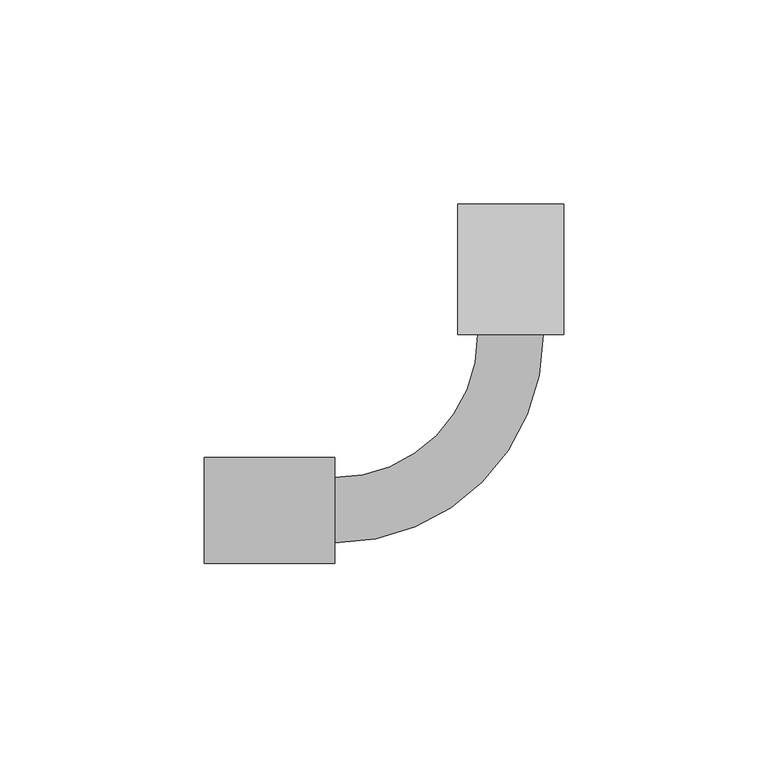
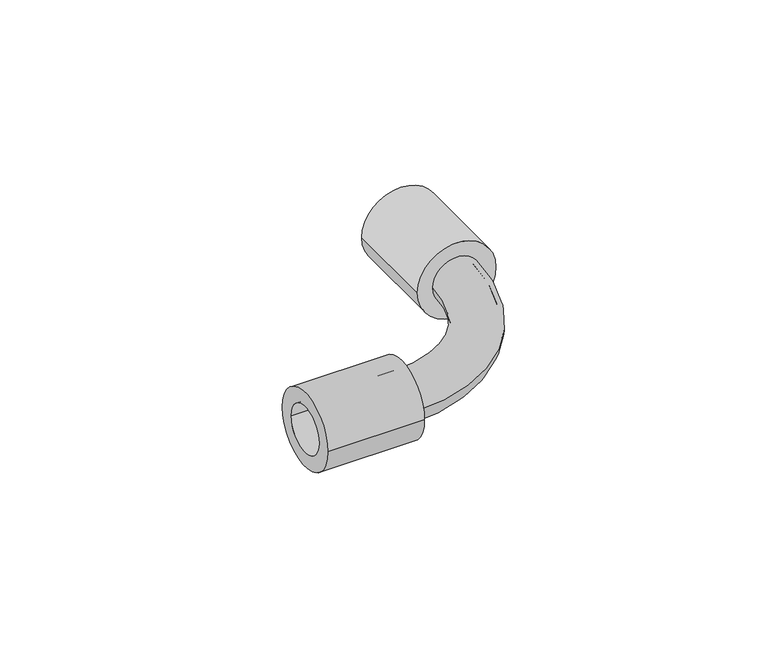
"""IFC4 building model written with IfcOpenShell, lengths in millimetres: cable carrier fitting geometry."""

from ifc_helpers import new_model, si_unit, point, frame, origin, origin_2d, place, context, project, spatial, circle_curve, ellipse_curve, trimmed, segment, composite_curve, outline, extrude, source, transform, mapped, element, save
from ifc_brep_helpers import plane_surface, revolved_surface, advanced_brep


def cable_carrier_fitting_6614c523(model_context):
    return source(origin(), model_context, "Body", "SolidModel", [
        advanced_brep(
        [(-43.0, -8.0, 0.0), (-43.0, 8.0, 0.0), (-43.0, -6.5, 0.0), (-43.0, 6.5, 0.0), (8.0, 43.0, 0.0), (-8.0, 43.0, 0.0), (6.5, 43.0, 0.0), (-6.5, 43.0, 0.0)],
        [
            (0, 1, circle_curve(frame((-43.0, 0.0, 0.0), z_axis=(-1.0, 0.0, 0.0), x_axis=(0.0, 1.0, 0.0)), 8.0)),
            (1, 0, circle_curve(frame((-43.0, 0.0, 0.0), z_axis=(-1.0, 0.0, 0.0), x_axis=(0.0, 1.0, 0.0)), 8.0)),
            (2, 3, circle_curve(frame((-43.0, 0.0, 0.0), z_axis=(1.0, 0.0, 0.0), x_axis=(0.0, 1.0, 0.0)), 6.5)),
            (3, 2, circle_curve(frame((-43.0, 0.0, 0.0), z_axis=(1.0, 0.0, 0.0), x_axis=(0.0, 1.0, 0.0)), 6.5)),
            (4, 5, circle_curve(frame((0.0, 43.0, 0.0), z_axis=(0.0, 1.0, 0.0), x_axis=(-1.0, 0.0, 0.0)), 8.0)),
            (5, 4, circle_curve(frame((0.0, 43.0, 0.0), z_axis=(0.0, 1.0, 0.0), x_axis=(-1.0, 0.0, 0.0)), 8.0)),
            (6, 7, circle_curve(frame((0.0, 43.0, 0.0), z_axis=(0.0, -1.0, 0.0), x_axis=(-1.0, 0.0, 0.0)), 6.5)),
            (7, 6, circle_curve(frame((0.0, 43.0, 0.0), z_axis=(0.0, -1.0, 0.0), x_axis=(-1.0, 0.0, 0.0)), 6.5)),
            (5, 1, circle_curve(frame((-43.0, 43.0, 0.0), z_axis=(0.0, 0.0, -1.0), x_axis=(0.0, -1.0, 0.0)), 35.0)),
            (0, 4, circle_curve(frame((-43.0, 43.0, 0.0), z_axis=(0.0, 0.0, 1.0), x_axis=(0.0, -1.0, 0.0)), 51.0)),
            (7, 3, circle_curve(frame((-43.0, 43.0, 0.0), z_axis=(0.0, 0.0, -1.0), x_axis=(0.0, -1.0, 0.0)), 36.5)),
            (2, 6, circle_curve(frame((-43.0, 43.0, 0.0), z_axis=(0.0, 0.0, 1.0), x_axis=(0.0, -1.0, 0.0)), 49.5)),
        ],
        [
            plane_surface(frame((-43.0, 0.0, 0.0), z_axis=(-1.0, 0.0, 0.0), x_axis=(0.0, 0.0, 1.0))),
            plane_surface(frame((0.0, 43.0, 0.0), z_axis=(0.0, 1.0, 0.0), x_axis=(0.0, 0.0, 1.0))),
            revolved_surface(trimmed(ellipse_curve(frame((-43.0, 0.0, 0.0), z_axis=(-1.0, 0.0, 0.0), x_axis=(0.0, 1.0, 0.0)), 8.0, 8.0), [point((-43.0, -8.0, 0.0))], [point((-43.0, 8.0, 0.0))], True, "CARTESIAN"), (-43.0, 43.0, 0.0), (0.0, 0.0, 1.0)),
            revolved_surface(trimmed(ellipse_curve(frame((-43.0, 0.0, 0.0), z_axis=(-1.0, 0.0, 0.0), x_axis=(0.0, 1.0, 0.0)), 8.0, 8.0), [point((-43.0, 8.0, 0.0))], [point((-43.0, -8.0, 0.0))], True, "CARTESIAN"), (-43.0, 43.0, 0.0), (0.0, 0.0, 1.0)),
            revolved_surface(trimmed(ellipse_curve(frame((-43.0, 0.0, 0.0), z_axis=(1.0, 0.0, 0.0), x_axis=(0.0, 1.0, 0.0)), 6.5, 6.5), [point((-43.0, -6.5, 0.0))], [point((-43.0, 6.5, 0.0))], True, "CARTESIAN"), (-43.0, 43.0, 0.0), (0.0, 0.0, 1.0)),
            revolved_surface(trimmed(ellipse_curve(frame((-43.0, 0.0, 0.0), z_axis=(1.0, 0.0, 0.0), x_axis=(0.0, 1.0, 0.0)), 6.5, 6.5), [point((-43.0, 6.5, 0.0))], [point((-43.0, -6.5, 0.0))], True, "CARTESIAN"), (-43.0, 43.0, 0.0), (0.0, 0.0, 1.0)),
        ],
        [
            (0, [[1, 2], [3, 4]]),
            (1, [[5, 6], [7, 8]]),
            (2, [[9, -1, 10, -6]]),
            (3, [[-10, -2, -9, -5]]),
            (4, [[11, -3, 12, -8]]),
            (5, [[-12, -4, -11, -7]]),
        ],
    ),
        extrude(outline(composite_curve([segment(trimmed(circle_curve(origin_2d(), 13.0), [point((0.0, 13.0))], [point((0.0, -13.0))], False, "CARTESIAN"), True, "CONTINUOUS"), segment(trimmed(circle_curve(origin_2d(), 13.0), [point((0.0, -13.0))], [point((0.0, 13.0))], False, "CARTESIAN"), True, "CONTINUOUS")], self_intersect=False), holes=[composite_curve([segment(trimmed(circle_curve(origin_2d(), 8.0), [point((0.0, 8.0))], [point((0.0, -8.0))], True, "CARTESIAN"), True, "CONTINUOUS"), segment(trimmed(circle_curve(origin_2d(), 8.0), [point((0.0, -8.0))], [point((0.0, 8.0))], True, "CARTESIAN"), True, "CONTINUOUS")], self_intersect=False)]), frame((0.0, 43.0, 0.0), z_axis=(0.0, 1.0, 0.0), x_axis=(0.0, 0.0, 1.0)), (0.0, 0.0, 1.0), 32.0),
        extrude(outline(composite_curve([segment(trimmed(circle_curve(origin_2d(), 13.0), [point((-13.0, 0.0))], [point((13.0, 0.0))], False, "CARTESIAN"), True, "CONTINUOUS"), segment(trimmed(circle_curve(origin_2d(), 13.0), [point((13.0, 0.0))], [point((-13.0, 0.0))], False, "CARTESIAN"), True, "CONTINUOUS")], self_intersect=False), holes=[composite_curve([segment(trimmed(circle_curve(origin_2d(), 8.0), [point((-8.0, 0.0))], [point((8.0, 0.0))], True, "CARTESIAN"), True, "CONTINUOUS"), segment(trimmed(circle_curve(origin_2d(), 8.0), [point((8.0, 0.0))], [point((-8.0, 0.0))], True, "CARTESIAN"), True, "CONTINUOUS")], self_intersect=False)]), frame((-75.0, 0.0, 0.0), z_axis=(1.0, 0.0, 0.0), x_axis=(0.0, 1.0, 0.0)), (0.0, 0.0, 1.0), 32.0),
    ])


if __name__ == "__main__":
    model = new_model("IFC4")
    model_context = context("Model", 3, world=origin())
    ifc_project = project(units=[si_unit("LENGTHUNIT", "METRE", prefix="MILLI")], contexts=[model_context])
    site = spatial("IfcSite", under=ifc_project)
    building = spatial("IfcBuilding", under=site)
    placement = place(None, origin())
    cable_carrier_fitting_shape = cable_carrier_fitting_6614c523(model_context)
    element("IfcCableCarrierFitting", 1, at=placement, inside=building, context=model_context, shape_type="MappedRepresentation", body=[
        mapped(cable_carrier_fitting_shape, transform((0.0, 0.0, 0.0), x_axis=(1.0, 0.0, 0.0), y_axis=(0.0, 1.0, 0.0), z_axis=(0.0, 0.0, 1.0))),
    ])
    save(model, "model.ifc")
